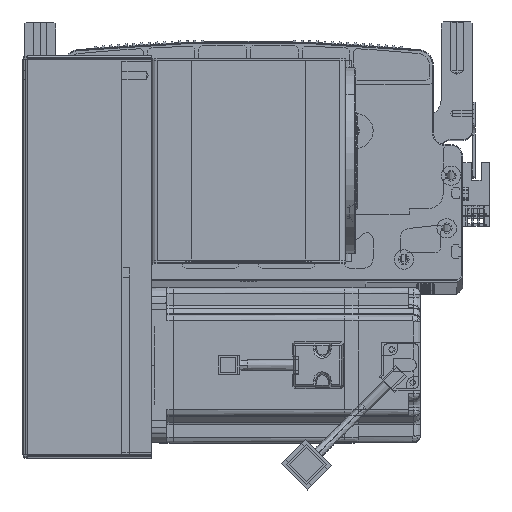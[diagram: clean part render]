
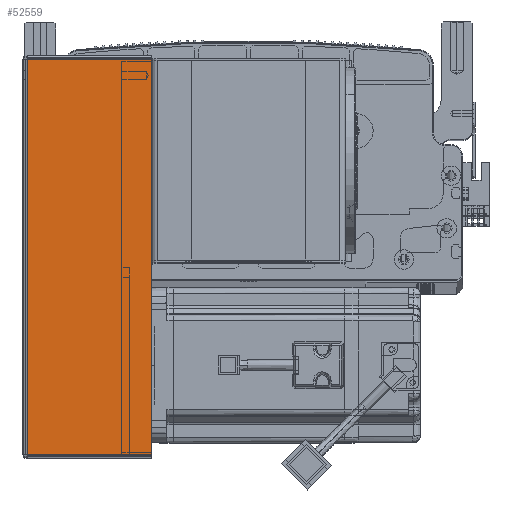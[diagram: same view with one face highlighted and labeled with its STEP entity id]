
A CAD part, top view. The second image highlights one B-rep face of the part: STEP entity #52559.
In plain terms, the highlighted planar face has unit normal (0, 0, 1) as drawn and (0, -1, 0) by its records, which use the part's own axes.
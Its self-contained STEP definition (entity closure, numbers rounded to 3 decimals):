
#5567 = EDGE_CURVE ( 'NONE', #23114, #88458, #52305, .T. ) ;
#7784 = DIRECTION ( 'NONE',  ( 0., 0., 1. ) ) ;
#7978 = VECTOR ( 'NONE', #96685, 1000. ) ;
#11658 = CARTESIAN_POINT ( 'NONE',  ( 0., -1.5, 0. ) ) ;
#17602 = VECTOR ( 'NONE', #27955, 1000. ) ;
#21457 = ORIENTED_EDGE ( 'NONE', *, *, #90794, .F. ) ;
#23114 = VERTEX_POINT ( 'NONE', #54080 ) ;
#27955 = DIRECTION ( 'NONE',  ( 1., 0., 0. ) ) ;
#36196 = CARTESIAN_POINT ( 'NONE',  ( 0.737, -1.5, -203.293 ) ) ;
#36843 = LINE ( 'NONE', #94619, #91134 ) ;
#38974 = EDGE_CURVE ( 'NONE', #56513, #23114, #48400, .T. ) ;
#41524 = CARTESIAN_POINT ( 'NONE',  ( 64.5, -1.5, 0. ) ) ;
#42957 = DIRECTION ( 'NONE',  ( 0., 1., 0. ) ) ;
#43153 = ORIENTED_EDGE ( 'NONE', *, *, #38974, .T. ) ;
#46147 = LINE ( 'NONE', #52324, #78203 ) ;
#48400 = LINE ( 'NONE', #82368, #17602 ) ;
#49866 = EDGE_CURVE ( 'NONE', #51252, #88458, #46147, .T. ) ;
#51252 = VERTEX_POINT ( 'NONE', #65432 ) ;
#52305 = LINE ( 'NONE', #41524, #7978 ) ;
#52324 = CARTESIAN_POINT ( 'NONE',  ( 0., -1.5, -0.707 ) ) ;
#52559 = ADVANCED_FACE ( 'NONE', ( #83828 ), #67371, .F. ) ;
#54080 = CARTESIAN_POINT ( 'NONE',  ( 64.5, -1.5, -203.293 ) ) ;
#56513 = VERTEX_POINT ( 'NONE', #36196 ) ;
#65363 = AXIS2_PLACEMENT_3D ( 'NONE', #11658, #42957, #74283 ) ;
#65432 = CARTESIAN_POINT ( 'NONE',  ( 0.737, -1.5, -0.707 ) ) ;
#67371 = PLANE ( 'NONE',  #65363 ) ;
#74283 = DIRECTION ( 'NONE',  ( -1., 0., 0. ) ) ;
#75387 = DIRECTION ( 'NONE',  ( 1., 0., 0. ) ) ;
#76172 = ORIENTED_EDGE ( 'NONE', *, *, #49866, .F. ) ;
#78203 = VECTOR ( 'NONE', #75387, 1000. ) ;
#78824 = ORIENTED_EDGE ( 'NONE', *, *, #5567, .T. ) ;
#82368 = CARTESIAN_POINT ( 'NONE',  ( 0., -1.5, -203.293 ) ) ;
#83828 = FACE_OUTER_BOUND ( 'NONE', #99282, .T. ) ;
#88458 = VERTEX_POINT ( 'NONE', #88470 ) ;
#88470 = CARTESIAN_POINT ( 'NONE',  ( 64.5, -1.5, -0.707 ) ) ;
#90794 = EDGE_CURVE ( 'NONE', #56513, #51252, #36843, .T. ) ;
#91134 = VECTOR ( 'NONE', #7784, 1000. ) ;
#94619 = CARTESIAN_POINT ( 'NONE',  ( 0.737, -1.5, 0. ) ) ;
#96685 = DIRECTION ( 'NONE',  ( 0., 0., 1. ) ) ;
#99282 = EDGE_LOOP ( 'NONE', ( #21457, #43153, #78824, #76172 ) ) ;
